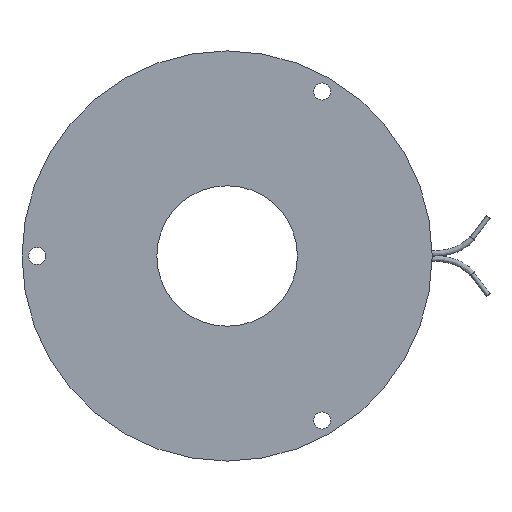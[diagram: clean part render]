
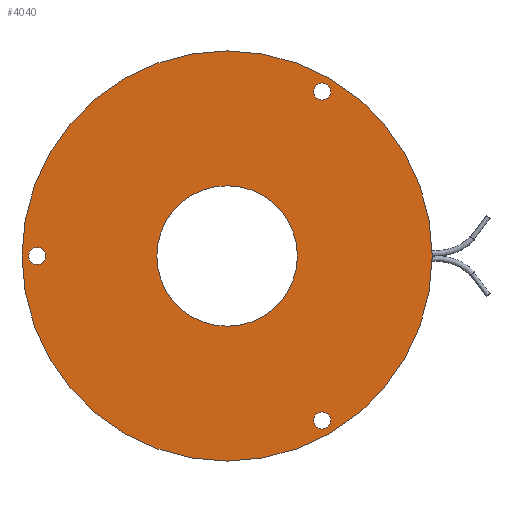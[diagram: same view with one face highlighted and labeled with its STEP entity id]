
A CAD part, left-side view. The second image highlights one B-rep face of the part: STEP entity #4040.
In plain terms, the highlighted planar face has unit normal (-1, 0, 0).
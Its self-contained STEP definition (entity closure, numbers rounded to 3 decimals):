
#91=FACE_BOUND('',#538,.T.);
#92=FACE_BOUND('',#539,.T.);
#93=FACE_BOUND('',#540,.T.);
#94=FACE_BOUND('',#541,.T.);
#143=PLANE('',#4562);
#290=FACE_OUTER_BOUND('',#537,.T.);
#537=EDGE_LOOP('',(#3142,#3143));
#538=EDGE_LOOP('',(#3144));
#539=EDGE_LOOP('',(#3145));
#540=EDGE_LOOP('',(#3146));
#541=EDGE_LOOP('',(#3147,#3148));
#1178=CIRCLE('',#4486,18.5);
#1179=CIRCLE('',#4487,18.5);
#1228=CIRCLE('',#4541,54.);
#1229=CIRCLE('',#4542,54.);
#1233=CIRCLE('',#4549,2.25);
#1234=CIRCLE('',#4551,2.25);
#1235=CIRCLE('',#4553,2.25);
#1611=VERTEX_POINT('',#7031);
#1612=VERTEX_POINT('',#7033);
#1660=VERTEX_POINT('',#7139);
#1661=VERTEX_POINT('',#7141);
#1669=VERTEX_POINT('',#7192);
#1670=VERTEX_POINT('',#7196);
#1671=VERTEX_POINT('',#7200);
#2111=EDGE_CURVE('',#1612,#1611,#1178,.T.);
#2112=EDGE_CURVE('',#1611,#1612,#1179,.T.);
#2165=EDGE_CURVE('',#1660,#1661,#1228,.T.);
#2166=EDGE_CURVE('',#1661,#1660,#1229,.T.);
#2177=EDGE_CURVE('',#1669,#1669,#1233,.T.);
#2179=EDGE_CURVE('',#1670,#1670,#1234,.T.);
#2181=EDGE_CURVE('',#1671,#1671,#1235,.T.);
#3142=ORIENTED_EDGE('',*,*,#2166,.F.);
#3143=ORIENTED_EDGE('',*,*,#2165,.F.);
#3144=ORIENTED_EDGE('',*,*,#2181,.T.);
#3145=ORIENTED_EDGE('',*,*,#2179,.T.);
#3146=ORIENTED_EDGE('',*,*,#2177,.T.);
#3147=ORIENTED_EDGE('',*,*,#2111,.T.);
#3148=ORIENTED_EDGE('',*,*,#2112,.T.);
#4040=ADVANCED_FACE('',(#290,#91,#92,#93,#94),#143,.T.);
#4486=AXIS2_PLACEMENT_3D('',#7034,#5557,#5558);
#4487=AXIS2_PLACEMENT_3D('',#7035,#5559,#5560);
#4541=AXIS2_PLACEMENT_3D('',#7142,#5671,#5672);
#4542=AXIS2_PLACEMENT_3D('',#7143,#5673,#5674);
#4549=AXIS2_PLACEMENT_3D('',#7194,#5691,#5692);
#4551=AXIS2_PLACEMENT_3D('',#7198,#5696,#5697);
#4553=AXIS2_PLACEMENT_3D('',#7202,#5701,#5702);
#4562=AXIS2_PLACEMENT_3D('',#7261,#5724,#5725);
#5557=DIRECTION('center_axis',(1.,0.,0.));
#5558=DIRECTION('ref_axis',(0.,0.,-1.));
#5559=DIRECTION('center_axis',(1.,0.,0.));
#5560=DIRECTION('ref_axis',(0.,0.,-1.));
#5671=DIRECTION('center_axis',(1.,0.,0.));
#5672=DIRECTION('ref_axis',(0.,0.,-1.));
#5673=DIRECTION('center_axis',(1.,0.,0.));
#5674=DIRECTION('ref_axis',(0.,0.,-1.));
#5691=DIRECTION('center_axis',(1.,0.,0.));
#5692=DIRECTION('ref_axis',(0.,0.,-1.));
#5696=DIRECTION('center_axis',(1.,0.,0.));
#5697=DIRECTION('ref_axis',(0.,0.,-1.));
#5701=DIRECTION('center_axis',(1.,0.,0.));
#5702=DIRECTION('ref_axis',(0.,0.,-1.));
#5724=DIRECTION('center_axis',(-1.,0.,0.));
#5725=DIRECTION('ref_axis',(0.,0.,1.));
#7031=CARTESIAN_POINT('',(-13.,-18.5,0.));
#7033=CARTESIAN_POINT('',(-13.,18.5,0.));
#7034=CARTESIAN_POINT('Origin',(-13.,0.,0.));
#7035=CARTESIAN_POINT('Origin',(-13.,0.,0.));
#7139=CARTESIAN_POINT('',(-13.,-54.,0.));
#7141=CARTESIAN_POINT('',(-13.,54.,0.));
#7142=CARTESIAN_POINT('Origin',(-13.,0.,0.));
#7143=CARTESIAN_POINT('Origin',(-13.,0.,0.));
#7192=CARTESIAN_POINT('',(-13.,-25.,-41.051));
#7194=CARTESIAN_POINT('Origin',(-13.,-25.,-43.301));
#7196=CARTESIAN_POINT('',(-13.,50.,2.25));
#7198=CARTESIAN_POINT('Origin',(-13.,50.,0.));
#7200=CARTESIAN_POINT('',(-13.,-25.,45.551));
#7202=CARTESIAN_POINT('Origin',(-13.,-25.,43.301));
#7261=CARTESIAN_POINT('Origin',(-13.,54.,0.));
